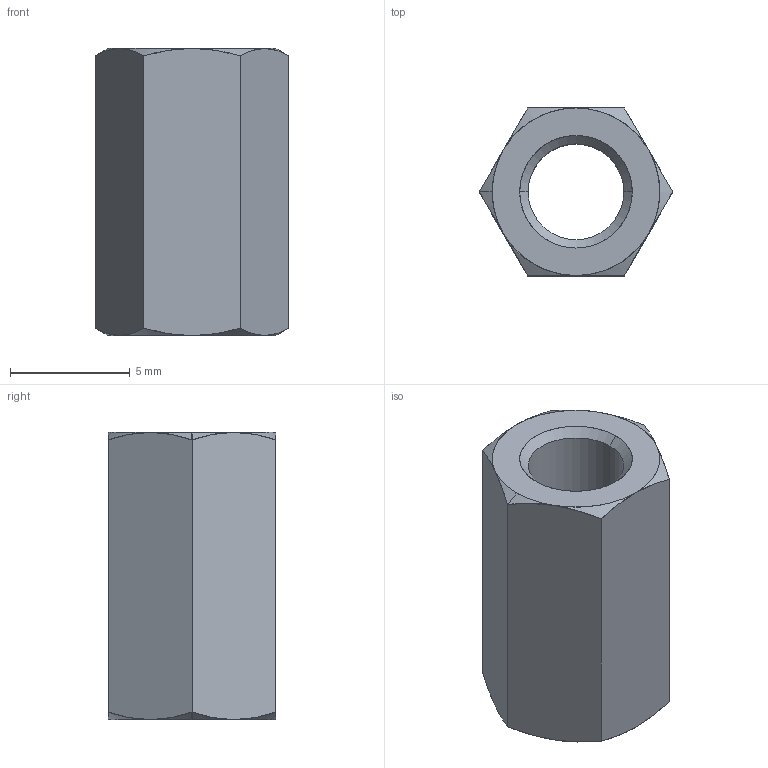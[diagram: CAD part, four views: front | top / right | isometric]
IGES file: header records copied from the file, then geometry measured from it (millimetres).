
Start section: SolidWorks IGES file using analytic representation for surfaces
Global section: file name: C:\Users\ianosborn\Desktop\N0503.NP_v2\N0503.NP_v2_20250227_IGES\N0503.040-012-NP.igs; native system: SolidWorks 2019; preprocessor: SolidWorks 2019; author: IanOsborn; date: 250227.144238; units: millimetre
Bounding box: 8.08 x 7 x 12 mm (x, y, z)
Surface area: 492.7 mm2 (no closed solid volume)
Topology: 0 solids, 0 shells, 28 faces, 286 edges, 286 vertices
Faces by surface type: revolution 20, bspline 8
